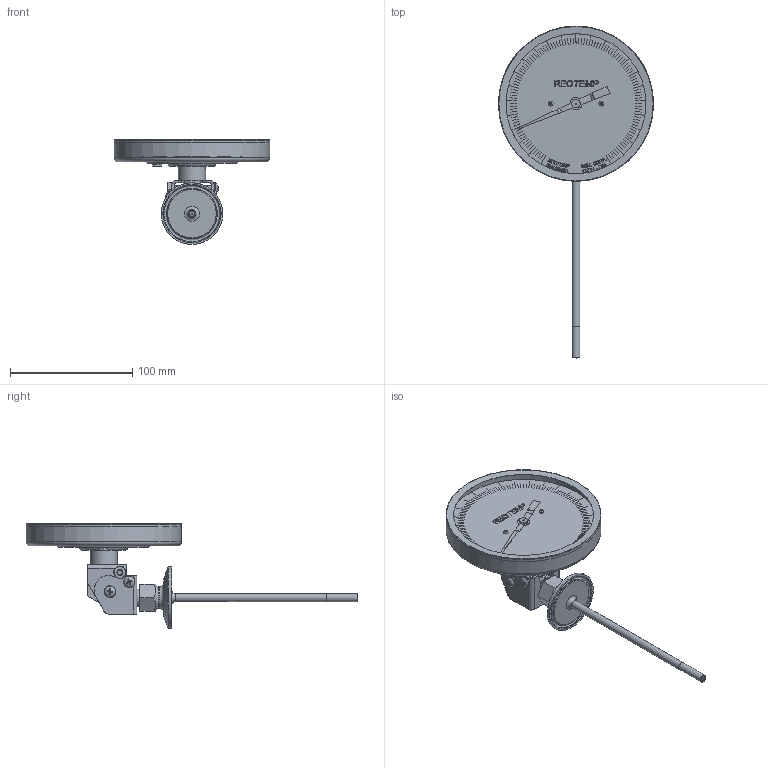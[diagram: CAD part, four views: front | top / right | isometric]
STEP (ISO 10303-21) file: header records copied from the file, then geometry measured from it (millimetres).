
FILE_DESCRIPTION(/* description */ (''),/* implementation_level */ '2;1');
FILE_NAME(/* name */ 'P:\3D Drawings\Bimet\JJ\JJ-1in-SANITARY\JJ-1in-SANITARY-STP\JJ-1in-SANITARY-STP.stp',/* time_stamp */ '2015-11-09T15:16:38-08:00',/* author */ ('charles'),/* organization */ (''),/* preprocessor_version */ 'ST-DEVELOPER v15.2',/* originating_system */ 'Autodesk Inventor 2014',/* authorisation */ '');
FILE_SCHEMA (('AUTOMOTIVE_DESIGN { 1 0 10303 214 3 1 1 }'));
Length unit declared in the file: inch
Products named in the file (1): JJ-1in-SANITARY
Bounding box: 127 x 271.3 x 85.77 mm (x, y, z)
Volume: 123759.2 mm3; surface area: 92987.1 mm2
Topology: 16 solids, 35 shells, 1736 faces, 4456 edges, 2929 vertices
Faces by surface type: plane 1206, bspline 213, cylinder 156, cone 90, torus 67, sphere 4
Full cylindrical faces by diameter (mm): 0.772 x1, 1.067 x1, 2.286 x2, 3.175 x1, 4.542 x1, 4.826 x6, 5.08 x2, 6.02 x1, 6.071 x1, 6.35 x1, 6.934 x1, 6.985 x1, 9.474 x4, 13.97 x3, 17.691 x1, 22.225 x1, 25.929 x1, 50.394 x1, 74.93 x1, 114.348 x1, 121.158 x1, 124.931 x1, 126.683 x1, 126.746 x1, 127 x1
Entity records: 56194 total; most frequent: CARTESIAN_POINT 14675, ORIENTED_EDGE 8604, DIRECTION 7178, EDGE_CURVE 4301, LINE 3114, VECTOR 3114, VERTEX_POINT 2877, EDGE_LOOP 2087
